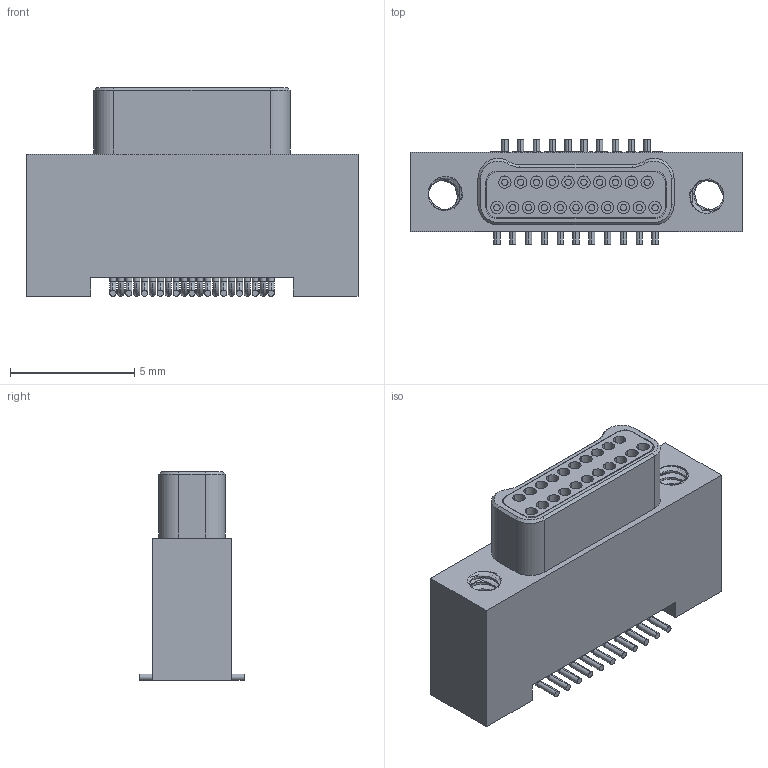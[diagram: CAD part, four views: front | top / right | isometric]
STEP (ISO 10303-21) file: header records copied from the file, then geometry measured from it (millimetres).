
FILE_DESCRIPTION (( 'STEP AP214' ), '1' );
FILE_NAME ('A28200-021 REV G.STEP', '2015-11-04T16:13:00', ( '' ), ( '' ), 'SwSTEP 2.0', 'SolidWorks 2015', '' );
FILE_SCHEMA (( 'AUTOMOTIVE_DESIGN' ));
Length unit declared in the file: inch
Products named in the file (1): A28200-021
Bounding box: 13.34 x 4.19 x 8.38 mm (x, y, z)
Volume: 239.6 mm3; surface area: 694.4 mm2
Topology: 1 solids, 1 shells, 634 faces, 1545 edges, 1012 vertices
Faces by surface type: cylinder 298, plane 226, bspline 54, torus 42, cone 14
Entity records: 27865 total; most frequent: CARTESIAN_POINT 12242, ORIENTED_EDGE 3090, DIRECTION 2987, EDGE_CURVE 1545, AXIS2_PLACEMENT_3D 1135, VERTEX_POINT 1012, EDGE_LOOP 737, LINE 717
